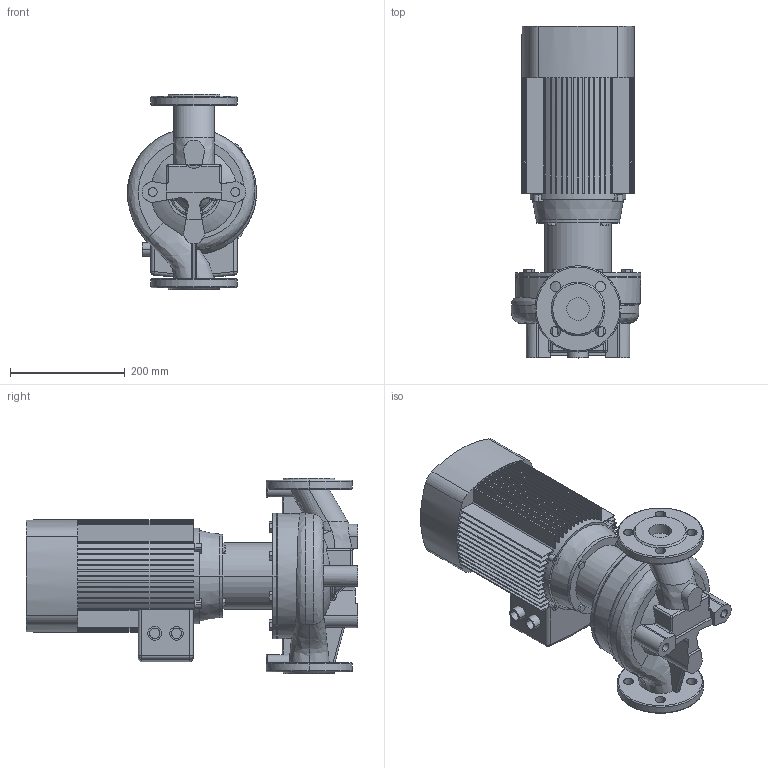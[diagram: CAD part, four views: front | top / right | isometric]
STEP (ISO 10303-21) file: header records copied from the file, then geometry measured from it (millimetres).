
FILE_DESCRIPTION (( 'STEP AP203' ), '1' );
FILE_NAME ('TD40-26G_2.STEP', '2022-05-02T14:03:53', ( '' ), ( '' ), 'SwSTEP 2.0', 'SolidWorks 2019', '' );
FILE_SCHEMA (( 'CONFIG_CONTROL_DESIGN' ));
Length unit declared in the file: millimetre
Products named in the file (4): Pr_ch 40_TD40-26G_2; Fon_40_TD40-26G_2; ED_B14_YE2-100L-2 (3); TD40-26G_2
Assembly tree (3 placements, depth 2):
  TD40-26G_2
    Pr_ch 40_TD40-26G_2
    Fon_40_TD40-26G_2
    ED_B14_YE2-100L-2 (3)
Bounding box: 225 x 578 x 340 mm (x, y, z)
Volume: 14847311.8 mm3; surface area: 1083981.8 mm2
Topology: 3 solids, 4 shells, 650 faces, 1758 edges, 1145 vertices
Faces by surface type: plane 399, cylinder 169, bspline 36, torus 25, cone 11, sphere 10
Entity records: 27256 total; most frequent: CARTESIAN_POINT 10378, ORIENTED_EDGE 3508, DIRECTION 3434, EDGE_CURVE 1754, AXIS2_PLACEMENT_3D 1237, VERTEX_POINT 1145, LINE 960, VECTOR 960
